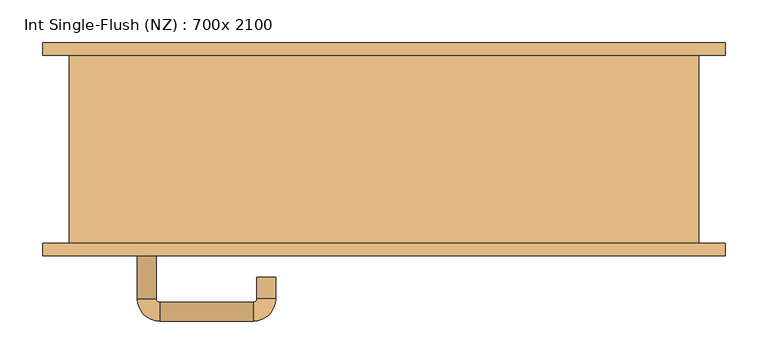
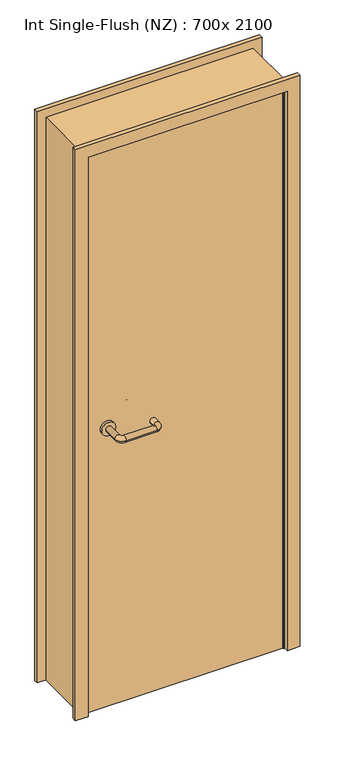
"""IFC4 building model written with IfcOpenShell, lengths in millimetres: door geometry, Int Single-Flush (NZ) : 700x 2100."""

import ifcopenshell
import ifcopenshell.guid

model = None  # the IFC model being written
_history = None  # IfcOwnerHistory: only IFC2X3 demands one
_inside = {}  # id of a spatial element -> (the spatial element, [elements in it])
_under = {}  # id of a project, library or spatial element -> (it, [spatial elements below it])
_declared = {}  # id of a project -> (the project, [libraries it declares])
_typed = {}  # id of a type object -> (the type object, [elements of that type])
_made_of = {}  # id of a material, layer set ... -> (it, [elements and type objects made of it])


def new_model(schema):
    """Start an empty IFC model of exactly this schema.

    Asked for "IFC4X3", IfcOpenShell would pick the latest addendum, in which some entities
    have other attributes; the version numbers below select the first issue.
    IFC2X3 requires an IfcOwnerHistory on every rooted entity: one is made here for all.
    """
    global model, _history
    if schema == "IFC4X3":
        model = ifcopenshell.file(schema_version=(4, 3, 0, 0))
    else:
        model = ifcopenshell.file(schema=schema)
    _inside.clear()
    _under.clear()
    _declared.clear()
    _typed.clear()
    _made_of.clear()
    _history = None
    if model.schema == "IFC2X3":
        org = make("IfcOrganization", Name="unknown")
        user = make(
            "IfcPersonAndOrganization",
            ThePerson=make("IfcPerson", FamilyName="unknown"),
            TheOrganization=org,
        )
        app = make(
            "IfcApplication",
            ApplicationDeveloper=org,
            Version="unknown",
            ApplicationFullName="unknown",
            ApplicationIdentifier="unknown",
        )
        _history = make(
            "IfcOwnerHistory",
            OwningUser=user,
            OwningApplication=app,
            ChangeAction="ADDED",
            CreationDate=0,
        )
    return model


def make(cls, **values):
    """One entity of the class cls with the attributes given. An attribute that is None is left unset."""
    return model.create_entity(
        cls, **{name: value for name, value in values.items() if value is not None}
    )


def rooted(cls, **values):
    """An entity with a GlobalId (a new one), such as an element, a storey or a relation."""
    return make(cls, GlobalId=ifcopenshell.guid.new(), OwnerHistory=_history, **values)


def si_unit(unit_type, name, prefix=None):
    """IfcSIUnit, for example si_unit("LENGTHUNIT", "METRE", prefix="MILLI")."""
    return make("IfcSIUnit", UnitType=unit_type, Prefix=prefix, Name=name)


def assignment(units):
    """IfcUnitAssignment: the units of a project."""
    return None if units is None else make("IfcUnitAssignment", Units=units)


def point(xyz):
    """IfcCartesianPoint."""
    return None if xyz is None else make("IfcCartesianPoint", Coordinates=xyz)


def direction(xyz):
    """IfcDirection."""
    return None if xyz is None else make("IfcDirection", DirectionRatios=xyz)


def frame(location, z_axis=None, x_axis=None):
    """IfcAxis2Placement3D, a coordinate frame: its origin and axes. An axis left out is left unset."""
    return make(
        "IfcAxis2Placement3D",
        Location=point(location),
        Axis=direction(z_axis),
        RefDirection=direction(x_axis),
    )


def frame_2d(location, x_axis=None):
    """IfcAxis2Placement2D, a coordinate frame in the plane: its origin and x axis."""
    return make(
        "IfcAxis2Placement2D", Location=point(location), RefDirection=direction(x_axis)
    )


def origin():
    """The frame at (0, 0, 0) with its axes left unset."""
    return frame((0.0, 0.0, 0.0))


def place(relative_to, where):
    """IfcLocalPlacement: puts the frame where relative to a parent placement (None: the world)."""
    return make(
        "IfcLocalPlacement", PlacementRelTo=relative_to, RelativePlacement=where
    )


def context(
    kind, dimensions, precision=None, world=None, true_north=None, identifier=None
):
    """IfcGeometricRepresentationContext, for example the 3D "Model" context."""
    return make(
        "IfcGeometricRepresentationContext",
        ContextIdentifier=identifier,
        ContextType=kind,
        CoordinateSpaceDimension=dimensions,
        Precision=precision,
        WorldCoordinateSystem=world,
        TrueNorth=true_north,
    )


def project(units=None, contexts=None):
    """IfcProject with its units and contexts."""
    return rooted(
        "IfcProject",
        Name="project",
        RepresentationContexts=contexts,
        UnitsInContext=assignment(units),
    )


def spatial(cls, under=None, at=None, **own):
    """A site, building, storey or space (cls), placed at a placement, below another one or the project."""
    s = rooted(cls, ObjectPlacement=at, **own)
    if under is not None:
        _under.setdefault(under.id(), (under, []))[1].append(s)
    return s


def polyline(points):
    """IfcPolyline through the points."""
    return make("IfcPolyline", Points=[point(p) for p in points])


def circle_curve(where, radius):
    """IfcCircle in the frame where."""
    return make("IfcCircle", Position=where, Radius=radius)


def ellipse_curve(where, semi_axis1, semi_axis2):
    """IfcEllipse in the frame where."""
    return make(
        "IfcEllipse", Position=where, SemiAxis1=semi_axis1, SemiAxis2=semi_axis2
    )


def trimmed(basis, trim1, trim2, sense, master):
    """IfcTrimmedCurve: the piece of a basis curve between two trims."""
    return make(
        "IfcTrimmedCurve",
        BasisCurve=basis,
        Trim1=trim1,
        Trim2=trim2,
        SenseAgreement=sense,
        MasterRepresentation=master,
    )


def segment(curve, same_sense, transition):
    """IfcCompositeCurveSegment."""
    return make(
        "IfcCompositeCurveSegment",
        Transition=transition,
        SameSense=same_sense,
        ParentCurve=curve,
    )


def composite_curve(segments, self_intersect=None):
    """IfcCompositeCurve: segments joined end to end."""
    return make("IfcCompositeCurve", Segments=segments, SelfIntersect=self_intersect)


def outline(outer, holes=None, kind="AREA"):
    """IfcArbitraryClosedProfileDef: a profile drawn as a closed curve; with holes, ...WithVoids."""
    if holes is None:
        return make("IfcArbitraryClosedProfileDef", ProfileType=kind, OuterCurve=outer)
    return make(
        "IfcArbitraryProfileDefWithVoids",
        ProfileType=kind,
        OuterCurve=outer,
        InnerCurves=holes,
    )


def extrude(swept, where, along, depth):
    """IfcExtrudedAreaSolid: the profile swept, set in the frame where, extruded along a direction by depth."""
    return make(
        "IfcExtrudedAreaSolid",
        SweptArea=swept,
        Position=where,
        ExtrudedDirection=direction(along),
        Depth=depth,
    )


def faces_of(points, faces, orient=None, outer=None):
    """IfcFace entities. A face is a list of loops; a loop is a list of indices into points, from 0.

    orient and outer hold one flag for each loop. By default every Orientation is true, the
    first loop of a face is its IfcFaceOuterBound and the others are IfcFaceBound.
    """
    made = []
    for i, loops in enumerate(faces):
        bounds = []
        for j, loop in enumerate(loops):
            is_outer = j == 0 if outer is None else outer[i][j]
            bounds.append(
                make(
                    "IfcFaceOuterBound" if is_outer else "IfcFaceBound",
                    Bound=make("IfcPolyLoop", Polygon=[points[k] for k in loop]),
                    Orientation=True if orient is None else orient[i][j],
                )
            )
        made.append(make("IfcFace", Bounds=bounds))
    return made


def faceted_brep(points, faces, orient=None, outer=None, voids=None):
    """IfcFacetedBrep: a solid bounded by flat faces; with voids (closed shells), ...WithVoids."""
    shared = [point(p) for p in points]
    hull = make("IfcClosedShell", CfsFaces=faces_of(shared, faces, orient, outer))
    if voids is None:
        return make("IfcFacetedBrep", Outer=hull)
    return make(
        "IfcFacetedBrepWithVoids",
        Outer=hull,
        Voids=[
            make(cls, CfsFaces=faces_of(shared, fs, o, b)) for cls, fs, o, b in voids
        ],
    )


def shape(context_of_items, identifier, shape_type, items):
    """IfcShapeRepresentation: the items that make up one representation, for example the "Body"."""
    return make(
        "IfcShapeRepresentation",
        ContextOfItems=context_of_items,
        RepresentationIdentifier=identifier,
        RepresentationType=shape_type,
        Items=items,
    )


def source(mapping_origin, context_of_items, identifier, shape_type, items):
    """IfcRepresentationMap: a shape defined once, which mapped items show again and again."""
    return make(
        "IfcRepresentationMap",
        MappingOrigin=mapping_origin,
        MappedRepresentation=shape(context_of_items, identifier, shape_type, items),
    )


def transform(
    local_origin,
    x_axis=None,
    y_axis=None,
    z_axis=None,
    scale=None,
    scale2=None,
    scale3=None,
    uniform=True,
):
    """IfcCartesianTransformationOperator3D, or its non-uniform kind. x_axis, y_axis, z_axis: its Axis1, 2, 3."""
    if uniform:
        return make(
            "IfcCartesianTransformationOperator3D",
            Axis1=direction(x_axis),
            Axis2=direction(y_axis),
            LocalOrigin=point(local_origin),
            Scale=scale,
            Axis3=direction(z_axis),
        )
    return make(
        "IfcCartesianTransformationOperator3DnonUniform",
        Axis1=direction(x_axis),
        Axis2=direction(y_axis),
        LocalOrigin=point(local_origin),
        Scale=scale,
        Axis3=direction(z_axis),
        Scale2=scale2,
        Scale3=scale3,
    )


def mapped(mapping_source, mapping_target):
    """IfcMappedItem: shows the shape of a source again, moved by a transform."""
    return make(
        "IfcMappedItem", MappingSource=mapping_source, MappingTarget=mapping_target
    )


def made_of(thing, what):
    """Note that an element or type object is made of a material, layer set ...; save() writes the relation."""
    if what is not None:
        _made_of.setdefault(what.id(), (what, []))[1].append(thing)
    return thing


def element(
    cls,
    number,
    at=None,
    inside=None,
    cuts=None,
    type_object=None,
    material=None,
    context=None,
    identifier="Body",
    shape_type=None,
    held_by="IfcProductDefinitionShape",
    body=None,
    shapes=None,
    **own,
):
    """One element of the class cls, such as IfcWall. Its Tag is "e" and its number.

    at: its placement. inside: the storey or other place that contains it. cuts: it is an
    opening in that element (IfcRelVoidsElement). A single representation is given by context,
    identifier, shape_type and body (its items); several are given by shapes. held_by: the class
    of the entity that holds the representations. save() writes the other relations.
    """
    e = rooted(cls, Tag="e%d" % number, ObjectPlacement=at, **own)
    if body is not None:
        shapes = [shape(context, identifier, shape_type, body)]
    if shapes is not None:
        e.Representation = make(held_by, Representations=shapes)
    if inside is not None:
        _inside.setdefault(inside.id(), (inside, []))[1].append(e)
    if cuts is not None:
        rooted(
            "IfcRelVoidsElement", RelatingBuildingElement=cuts, RelatedOpeningElement=e
        )
    if type_object is not None:
        _typed.setdefault(type_object.id(), (type_object, []))[1].append(e)
    return made_of(e, material)


def aggregate(whole, parts):
    """IfcRelAggregates: a whole, such as a stair, and the parts it consists of."""
    return rooted("IfcRelAggregates", RelatingObject=whole, RelatedObjects=parts)


def save(model, path):
    """Write the relations noted so far, then the file.

    IfcRelAggregates (storeys below a building ...), IfcRelContainedInSpatialStructure (elements
    in a storey), IfcRelDefinesByType, IfcRelAssociatesMaterial and IfcRelDeclares: one each for
    every whole, place, type object, material and project.
    """
    for whole, parts in _under.values():
        aggregate(whole, parts)
    for where, things in _inside.values():
        rooted(
            "IfcRelContainedInSpatialStructure",
            RelatedElements=things,
            RelatingStructure=where,
        )
    for kind, things in _typed.values():
        rooted("IfcRelDefinesByType", RelatedObjects=things, RelatingType=kind)
    for what, things in _made_of.values():
        rooted("IfcRelAssociatesMaterial", RelatedObjects=things, RelatingMaterial=what)
    for by, libraries in _declared.values():
        rooted("IfcRelDeclares", RelatingContext=by, RelatedDefinitions=libraries)
    model.write(path)


def plane_surface(at):
    """IfcPlane: the flat surface through the origin of the frame at, square to its z axis."""
    return make("IfcPlane", Position=at)


def cylinder_surface(at, radius):
    """IfcCylindricalSurface: all points at the distance radius from the z axis of the frame at."""
    return make("IfcCylindricalSurface", Position=at, Radius=radius)


def revolved_surface(curve, axis_point, axis_direction):
    """IfcSurfaceOfRevolution: the curve turned about the line through axis_point along axis_direction."""
    return make(
        "IfcSurfaceOfRevolution",
        SweptCurve=make("IfcArbitraryOpenProfileDef", ProfileType="CURVE", Curve=curve),
        AxisPosition=make("IfcAxis1Placement", Location=point(axis_point), Axis=direction(axis_direction)),
    )


def advanced_brep(points, edges, surfaces, faces):
    """IfcAdvancedBrep: a solid bounded by faces that lie on surfaces and meet in shared edges.

    An edge is (start, end): straight between two places in points (the first is 0);
    or (start, end, curve); or (start, end, curve, False) where it runs against its curve.
    A face is (place in surfaces, loops), or (place, loops, False) where it looks against
    its surface's normal. A loop lists edges by number (the first is 1), with a minus sign
    where the edge is run from its end to its start. The first loop is the outer one.
    """
    corners = [point(p) for p in points]
    vertices = [make("IfcVertexPoint", VertexGeometry=c) for c in corners]
    made = []
    for start, end, *more in edges:
        made.append(
            make(
                "IfcEdgeCurve",
                EdgeStart=vertices[start],
                EdgeEnd=vertices[end],
                EdgeGeometry=more[0] if more else make("IfcPolyline", Points=[corners[start], corners[end]]),
                SameSense=more[1] if len(more) > 1 else True,
            )
        )
    hull = []
    for where, loops, *sense in faces:
        bounds = []
        for j, loop in enumerate(loops):
            ring = [make("IfcOrientedEdge", EdgeElement=made[abs(k) - 1], Orientation=k > 0) for k in loop]
            bounds.append(
                make(
                    "IfcFaceOuterBound" if j == 0 else "IfcFaceBound",
                    Bound=make("IfcEdgeLoop", EdgeList=ring),
                    Orientation=True,
                )
            )
        hull.append(make("IfcAdvancedFace", Bounds=bounds, FaceSurface=surfaces[where], SameSense=sense[0] if sense else True))
    return make("IfcAdvancedBrep", Outer=make("IfcClosedShell", CfsFaces=hull))


def int_single_flush_nz_700x_2100_87768231(model_context):
    return source(origin(), model_context, "Body", "SolidModel", [
        extrude(outline(polyline([(2119.0, -444.0), (0.0, -444.0), (0.0, -425.0), (2100.0, -425.0), (2100.0, 275.0), (0.0, 275.0), (0.0, 294.0), (2119.0, 294.0), (2119.0, -444.0)])), frame((0.0, -110.0, 0.0), z_axis=(0.0, 1.0, 0.0), x_axis=(0.0, 0.0, 1.0)), (0.0, 0.0, 1.0), 220.0),
        faceted_brep([(-425.0, -69.0, 0.0), (-425.0, -24.0, 0.0), (-406.6719264, -24.0, 0.0), (-406.6719264, -69.0, 0.0), (-406.6719264, -69.0, 2081.6719264), (-425.0, -69.0, 2100.0), (-406.6719264, -24.0, 2081.6719264), (-425.0, -24.0, 2100.0), (275.0, -69.0, 0.0), (256.6719264, -69.0, 0.0), (256.6719264, -24.0, 0.0), (275.0, -24.0, 0.0), (275.0, -69.0, 2100.0), (275.0, -24.0, 2100.0), (256.6719264, -24.0, 2081.6719264), (256.6719264, -69.0, 2081.6719264)], [[[0, 1, 2, 3]], [[3, 4, 5, 0]], [[2, 6, 4, 3]], [[1, 7, 6, 2]], [[0, 5, 7, 1]], [[8, 9, 10, 11]], [[12, 8, 11, 13]], [[13, 11, 10, 14]], [[14, 10, 9, 15]], [[15, 9, 8, 12]], [[4, 15, 12, 5]], [[6, 14, 15, 4]], [[7, 13, 14, 6]], [[5, 12, 13, 7]]]),
        extrude(outline(polyline([(2150.0, 325.0), (2150.0, -475.0), (0.0, -475.0), (0.0, -430.0), (2105.0, -430.0), (2105.0, 280.0), (0.0, 280.0), (0.0, 325.0), (2150.0, 325.0)])), frame((0.0, -125.0, 0.0), z_axis=(0.0, 1.0, 0.0), x_axis=(0.0, 0.0, 1.0)), (0.0, 0.0, 1.0), 15.0),
        extrude(outline(polyline([(2150.0, -475.0), (0.0, -475.0), (0.0, -430.0), (2105.0, -430.0), (2105.0, 280.0), (0.0, 280.0), (0.0, 325.0), (2150.0, 325.0), (2150.0, -475.0)])), frame((0.0, 110.0, 0.0), z_axis=(0.0, 1.0, 0.0), x_axis=(0.0, 0.0, 1.0)), (0.0, 0.0, 1.0), 15.0),
        advanced_brep(
        [(-364.0, -62.0160352, 1053.0), (-342.0, -62.0160352, 1053.0), (-342.0, -7.0160352, 1053.0), (-364.0, -7.0160352, 1053.0), (-338.0, -3.0160352, 1053.0), (-338.0, 18.9839648, 1053.0), (-228.0, -3.0160352, 1053.0), (-228.0, 18.9839648, 1053.0), (-224.0, -7.0160352, 1053.0), (-202.0, -7.0160352, 1053.0), (-202.0, -32.0160352, 1053.0), (-224.0, -32.0160352, 1053.0)],
        [
            (0, 1, circle_curve(frame((-353.0, -62.0160352, 1053.0), z_axis=(0.0, -1.0, 0.0), x_axis=(1.0, 0.0, 0.0)), 11.0)),
            (1, 0, circle_curve(frame((-353.0, -62.0160352, 1053.0), z_axis=(0.0, -1.0, 0.0), x_axis=(1.0, 0.0, 0.0)), 11.0)),
            (1, 2),
            (2, 3, circle_curve(frame((-353.0, -7.0160352, 1053.0), z_axis=(0.0, -1.0, 0.0), x_axis=(1.0, 0.0, 0.0)), 11.0)),
            (3, 0),
            (3, 2, circle_curve(frame((-353.0, -7.0160352, 1053.0), z_axis=(0.0, -1.0, 0.0), x_axis=(1.0, 0.0, 0.0)), 11.0)),
            (4, 5, circle_curve(frame((-338.0, 7.9839648, 1053.0), z_axis=(-1.0, 0.0, 0.0), x_axis=(0.0, -1.0, 0.0)), 11.0)),
            (5, 3, circle_curve(frame((-338.0, -7.0160352, 1053.0), z_axis=(0.0, 0.0, 1.0), x_axis=(-1.0, 0.0, 0.0)), 26.0)),
            (2, 4, circle_curve(frame((-338.0, -7.0160352, 1053.0), z_axis=(0.0, 0.0, -1.0), x_axis=(-1.0, 0.0, 0.0)), 4.0)),
            (5, 4, circle_curve(frame((-338.0, 7.9839648, 1053.0), z_axis=(-1.0, 0.0, 0.0), x_axis=(0.0, -1.0, 0.0)), 11.0)),
            (4, 6),
            (6, 7, circle_curve(frame((-228.0, 7.9839648, 1053.0), z_axis=(-1.0, 0.0, 0.0), x_axis=(0.0, -1.0, 0.0)), 11.0)),
            (7, 5),
            (7, 6, circle_curve(frame((-228.0, 7.9839648, 1053.0), z_axis=(-1.0, 0.0, 0.0), x_axis=(0.0, -1.0, 0.0)), 11.0)),
            (8, 9, circle_curve(frame((-213.0, -7.0160352, 1053.0), z_axis=(0.0, 1.0, 0.0), x_axis=(-1.0, 0.0, 0.0)), 11.0)),
            (9, 7, circle_curve(frame((-228.0, -7.0160352, 1053.0), z_axis=(0.0, 0.0, 1.0), x_axis=(0.0, 1.0, 0.0)), 26.0)),
            (6, 8, circle_curve(frame((-228.0, -7.0160352, 1053.0), z_axis=(0.0, 0.0, -1.0), x_axis=(0.0, 1.0, 0.0)), 4.0)),
            (9, 8, circle_curve(frame((-213.0, -7.0160352, 1053.0), z_axis=(0.0, 1.0, 0.0), x_axis=(-1.0, 0.0, 0.0)), 11.0)),
            (10, 11, circle_curve(frame((-213.0, -32.0160352, 1053.0), z_axis=(0.0, -1.0, 0.0), x_axis=(-1.0, 0.0, 0.0)), 11.0)),
            (11, 10, circle_curve(frame((-213.0, -32.0160352, 1053.0), z_axis=(0.0, -1.0, 0.0), x_axis=(-1.0, 0.0, 0.0)), 11.0)),
            (8, 11),
            (10, 9),
        ],
        [
            plane_surface(frame((-364.0, -62.0160352, 1053.0), z_axis=(0.0, -1.0, 0.0), x_axis=(0.0, 0.0, -1.0))),
            cylinder_surface(frame((-353.0, -62.0160352, 1053.0), z_axis=(0.0, -1.0, 0.0), x_axis=(1.0, 0.0, 0.0)), 11.0),
            revolved_surface(trimmed(ellipse_curve(frame((-353.0, -7.0160352, 1053.0), z_axis=(0.0, 1.0, 0.0), x_axis=(1.0, 0.0, 0.0)), 11.0, 11.0), [point((-364.0, -7.0160352, 1053.0))], [point((-342.0, -7.0160352, 1053.0))], True, "CARTESIAN"), (-338.0, -7.0160352, 1053.0), (0.0, 0.0, 1.0)),
            revolved_surface(trimmed(ellipse_curve(frame((-353.0, -7.0160352, 1053.0), z_axis=(0.0, 1.0, 0.0), x_axis=(1.0, 0.0, 0.0)), 11.0, 11.0), [point((-342.0, -7.0160352, 1053.0))], [point((-364.0, -7.0160352, 1053.0))], True, "CARTESIAN"), (-338.0, -7.0160352, 1053.0), (0.0, 0.0, 1.0)),
            cylinder_surface(frame((-338.0, 7.9839648, 1053.0), z_axis=(-1.0, 0.0, 0.0), x_axis=(0.0, -1.0, 0.0)), 11.0),
            revolved_surface(trimmed(ellipse_curve(frame((-228.0, 7.9839648, 1053.0), z_axis=(1.0, 0.0, 0.0), x_axis=(0.0, -1.0, 0.0)), 11.0, 11.0), [point((-228.0, 18.9839648, 1053.0))], [point((-228.0, -3.0160352, 1053.0))], True, "CARTESIAN"), (-228.0, -7.0160352, 1053.0), (0.0, 0.0, 1.0)),
            revolved_surface(trimmed(ellipse_curve(frame((-228.0, 7.9839648, 1053.0), z_axis=(1.0, 0.0, 0.0), x_axis=(0.0, -1.0, 0.0)), 11.0, 11.0), [point((-228.0, -3.0160352, 1053.0))], [point((-228.0, 18.9839648, 1053.0))], True, "CARTESIAN"), (-228.0, -7.0160352, 1053.0), (0.0, 0.0, 1.0)),
            plane_surface(frame((-224.0, -32.0160352, 1053.0), z_axis=(0.0, -1.0, 0.0), x_axis=(0.0, 0.0, 1.0))),
            cylinder_surface(frame((-213.0, -7.0160352, 1053.0), z_axis=(0.0, 1.0, 0.0), x_axis=(-1.0, 0.0, 0.0)), 11.0),
        ],
        [
            (0, [[1, 2]]),
            (1, [[3, 4, 5, -2]]),
            (1, [[-5, 6, -3, -1]]),
            (2, [[7, 8, -4, 9]]),
            (3, [[10, -9, -6, -8]]),
            (4, [[11, 12, 13, -7]]),
            (4, [[-13, 14, -11, -10]]),
            (5, [[15, 16, -12, 17]]),
            (6, [[18, -17, -14, -16]]),
            (7, [[19, 20]]),
            (8, [[21, -19, 22, -15]]),
            (8, [[-22, -20, -21, -18]]),
        ],
    ),
        extrude(outline(composite_curve([segment(trimmed(circle_curve(frame_2d((1053.0, -353.0)), 25.0), [point((1053.0, -378.0))], [point((1053.0, -328.0))], False, "CARTESIAN"), True, "CONTINUOUS"), segment(trimmed(circle_curve(frame_2d((1053.0, -353.0)), 25.0), [point((1053.0, -328.0))], [point((1053.0, -378.0))], False, "CARTESIAN"), True, "CONTINUOUS")], self_intersect=False)), frame((0.0, -72.0, 0.0), z_axis=(0.0, 1.0, 0.0), x_axis=(0.0, 0.0, 1.0)), (0.0, 0.0, 1.0), 9.9839648),
        advanced_brep(
        [(-342.0, -120.0, 1053.0), (-364.0, -120.0, 1053.0), (-364.0, -175.0, 1053.0), (-342.0, -175.0, 1053.0), (-338.0, -201.0, 1053.0), (-338.0, -179.0, 1053.0), (-228.0, -201.0, 1053.0), (-228.0, -179.0, 1053.0), (-202.0, -175.0, 1053.0), (-224.0, -175.0, 1053.0), (-224.0, -150.0, 1053.0), (-202.0, -150.0, 1053.0)],
        [
            (0, 1, circle_curve(frame((-353.0, -120.0, 1053.0), z_axis=(0.0, 1.0, 0.0), x_axis=(-1.0, 0.0, 0.0)), 11.0)),
            (1, 0, circle_curve(frame((-353.0, -120.0, 1053.0), z_axis=(0.0, 1.0, 0.0), x_axis=(-1.0, 0.0, 0.0)), 11.0)),
            (1, 2),
            (2, 3, circle_curve(frame((-353.0, -175.0, 1053.0), z_axis=(0.0, 1.0, 0.0), x_axis=(-1.0, 0.0, 0.0)), 11.0)),
            (3, 0),
            (3, 2, circle_curve(frame((-353.0, -175.0, 1053.0), z_axis=(0.0, 1.0, 0.0), x_axis=(-1.0, 0.0, 0.0)), 11.0)),
            (4, 5, circle_curve(frame((-338.0, -190.0, 1053.0), z_axis=(-1.0, 0.0, 0.0), x_axis=(0.0, -1.0, 0.0)), 11.0)),
            (5, 3, circle_curve(frame((-338.0, -175.0, 1053.0), z_axis=(0.0, 0.0, -1.0), x_axis=(-1.0, 0.0, 0.0)), 4.0)),
            (2, 4, circle_curve(frame((-338.0, -175.0, 1053.0), z_axis=(0.0, 0.0, 1.0), x_axis=(-1.0, 0.0, 0.0)), 26.0)),
            (5, 4, circle_curve(frame((-338.0, -190.0, 1053.0), z_axis=(-1.0, 0.0, 0.0), x_axis=(0.0, -1.0, 0.0)), 11.0)),
            (4, 6),
            (6, 7, circle_curve(frame((-228.0, -190.0, 1053.0), z_axis=(-1.0, 0.0, 0.0), x_axis=(0.0, -1.0, 0.0)), 11.0)),
            (7, 5),
            (7, 6, circle_curve(frame((-228.0, -190.0, 1053.0), z_axis=(-1.0, 0.0, 0.0), x_axis=(0.0, -1.0, 0.0)), 11.0)),
            (8, 9, circle_curve(frame((-213.0, -175.0, 1053.0), z_axis=(0.0, -1.0, 0.0), x_axis=(1.0, 0.0, 0.0)), 11.0)),
            (9, 7, circle_curve(frame((-228.0, -175.0, 1053.0), z_axis=(0.0, 0.0, -1.0), x_axis=(0.0, -1.0, 0.0)), 4.0)),
            (6, 8, circle_curve(frame((-228.0, -175.0, 1053.0), z_axis=(0.0, 0.0, 1.0), x_axis=(0.0, -1.0, 0.0)), 26.0)),
            (9, 8, circle_curve(frame((-213.0, -175.0, 1053.0), z_axis=(0.0, -1.0, 0.0), x_axis=(1.0, 0.0, 0.0)), 11.0)),
            (10, 11, circle_curve(frame((-213.0, -150.0, 1053.0), z_axis=(0.0, 1.0, 0.0), x_axis=(1.0, 0.0, 0.0)), 11.0)),
            (11, 10, circle_curve(frame((-213.0, -150.0, 1053.0), z_axis=(0.0, 1.0, 0.0), x_axis=(1.0, 0.0, 0.0)), 11.0)),
            (8, 11),
            (10, 9),
        ],
        [
            plane_surface(frame((-364.0, -120.0, 1053.0), z_axis=(0.0, 1.0, 0.0), x_axis=(0.0, 0.0, 1.0))),
            cylinder_surface(frame((-353.0, -120.0, 1053.0), z_axis=(0.0, 1.0, 0.0), x_axis=(-1.0, 0.0, 0.0)), 11.0),
            revolved_surface(trimmed(ellipse_curve(frame((-353.0, -175.0, 1053.0), z_axis=(0.0, -1.0, 0.0), x_axis=(-1.0, 0.0, 0.0)), 11.0, 11.0), [point((-342.0, -175.0, 1053.0))], [point((-364.0, -175.0, 1053.0))], True, "CARTESIAN"), (-338.0, -175.0, 1053.0), (0.0, 0.0, -1.0)),
            revolved_surface(trimmed(ellipse_curve(frame((-353.0, -175.0, 1053.0), z_axis=(0.0, -1.0, 0.0), x_axis=(-1.0, 0.0, 0.0)), 11.0, 11.0), [point((-364.0, -175.0, 1053.0))], [point((-342.0, -175.0, 1053.0))], True, "CARTESIAN"), (-338.0, -175.0, 1053.0), (0.0, 0.0, -1.0)),
            cylinder_surface(frame((-338.0, -190.0, 1053.0), z_axis=(-1.0, 0.0, 0.0), x_axis=(0.0, -1.0, 0.0)), 11.0),
            revolved_surface(trimmed(ellipse_curve(frame((-228.0, -190.0, 1053.0), z_axis=(1.0, 0.0, 0.0), x_axis=(0.0, -1.0, 0.0)), 11.0, 11.0), [point((-228.0, -179.0, 1053.0))], [point((-228.0, -201.0, 1053.0))], True, "CARTESIAN"), (-228.0, -175.0, 1053.0), (0.0, 0.0, -1.0)),
            revolved_surface(trimmed(ellipse_curve(frame((-228.0, -190.0, 1053.0), z_axis=(1.0, 0.0, 0.0), x_axis=(0.0, -1.0, 0.0)), 11.0, 11.0), [point((-228.0, -201.0, 1053.0))], [point((-228.0, -179.0, 1053.0))], True, "CARTESIAN"), (-228.0, -175.0, 1053.0), (0.0, 0.0, -1.0)),
            plane_surface(frame((-224.0, -150.0, 1053.0), z_axis=(0.0, 1.0, 0.0), x_axis=(0.0, 0.0, -1.0))),
            cylinder_surface(frame((-213.0, -175.0, 1053.0), z_axis=(0.0, -1.0, 0.0), x_axis=(1.0, 0.0, 0.0)), 11.0),
        ],
        [
            (0, [[1, 2]]),
            (1, [[3, 4, 5, -2]]),
            (1, [[-5, 6, -3, -1]]),
            (2, [[7, 8, -4, 9]]),
            (3, [[10, -9, -6, -8]]),
            (4, [[11, 12, 13, -7]]),
            (4, [[-13, 14, -11, -10]]),
            (5, [[15, 16, -12, 17]]),
            (6, [[18, -17, -14, -16]]),
            (7, [[19, 20]]),
            (8, [[21, -19, 22, -15]]),
            (8, [[-22, -20, -21, -18]]),
        ],
    ),
        extrude(outline(composite_curve([segment(trimmed(circle_curve(frame_2d((1053.0, -353.0)), 25.0), [point((1053.0, -328.0))], [point((1053.0, -378.0))], False, "CARTESIAN"), True, "CONTINUOUS"), segment(trimmed(circle_curve(frame_2d((1053.0, -353.0)), 25.0), [point((1053.0, -378.0))], [point((1053.0, -328.0))], False, "CARTESIAN"), True, "CONTINUOUS")], self_intersect=False)), frame((0.0, -120.0, 0.0), z_axis=(0.0, 1.0, 0.0), x_axis=(0.0, 0.0, 1.0)), (0.0, 0.0, 1.0), 10.0),
        extrude(outline(polyline([(272.0, -72.0), (272.0, -110.0), (-428.0, -110.0), (-428.0, -72.0), (272.0, -72.0)])), frame((0.0, 0.0, 3.0), z_axis=(0.0, 0.0, 1.0), x_axis=(1.0, 0.0, 0.0)), (0.0, 0.0, 1.0), 2094.0),
    ])


if __name__ == "__main__":
    model = new_model("IFC4")
    model_context = context("Model", 3, world=origin())
    ifc_project = project(units=[si_unit("LENGTHUNIT", "METRE", prefix="MILLI")], contexts=[model_context])
    site = spatial("IfcSite", under=ifc_project)
    building = spatial("IfcBuilding", under=site)
    placement = place(None, origin())
    int_single_flush_nz_700x_2100_shape = int_single_flush_nz_700x_2100_87768231(model_context)
    element("IfcDoor", 1, ObjectType="Int Single-Flush (NZ) : 700x 2100", at=placement, inside=building, context=model_context, shape_type="MappedRepresentation", body=[
        mapped(int_single_flush_nz_700x_2100_shape, transform((0.0, 0.0, 0.0), x_axis=(1.0, 0.0, 0.0), y_axis=(0.0, 1.0, 0.0), z_axis=(0.0, 0.0, 1.0))),
    ])
    save(model, "model.ifc")
